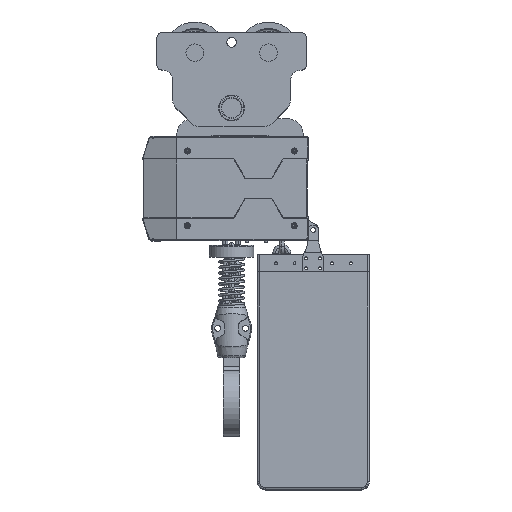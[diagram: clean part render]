
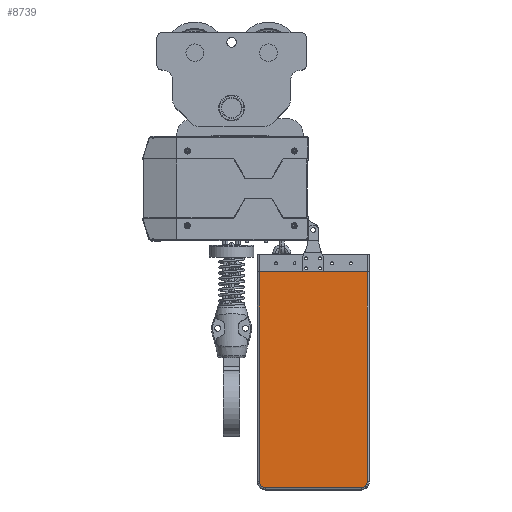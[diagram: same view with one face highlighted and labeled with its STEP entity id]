
A CAD part, top view. The second image highlights one B-rep face of the part: STEP entity #8739.
In plain terms, the highlighted planar face has unit normal (0, 0, 1).
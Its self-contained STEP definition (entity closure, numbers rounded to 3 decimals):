
#4586=CIRCLE('',#56665,11.);
#4587=CIRCLE('',#56666,11.);
#8739=ADVANCED_FACE('',(#12854),#10612,.T.);
#10612=PLANE('',#56667);
#12854=FACE_OUTER_BOUND('',#15731,.T.);
#15731=EDGE_LOOP('',(#27875,#27876,#27877,#27878,#27879,#27880));
#27875=ORIENTED_EDGE('',*,*,#42528,.T.);
#27876=ORIENTED_EDGE('',*,*,#42529,.T.);
#27877=ORIENTED_EDGE('',*,*,#42530,.T.);
#27878=ORIENTED_EDGE('',*,*,#42531,.T.);
#27879=ORIENTED_EDGE('',*,*,#42532,.T.);
#27880=ORIENTED_EDGE('',*,*,#42533,.T.);
#35674=VERTEX_POINT('',#98943);
#35675=VERTEX_POINT('',#98944);
#35676=VERTEX_POINT('',#98946);
#35677=VERTEX_POINT('',#98948);
#35678=VERTEX_POINT('',#98950);
#35679=VERTEX_POINT('',#98952);
#42528=EDGE_CURVE('',#35674,#35675,#47984,.T.);
#42529=EDGE_CURVE('',#35675,#35676,#47985,.T.);
#42530=EDGE_CURVE('',#35676,#35677,#47986,.T.);
#42531=EDGE_CURVE('',#35677,#35678,#4586,.T.);
#42532=EDGE_CURVE('',#35678,#35679,#47987,.T.);
#42533=EDGE_CURVE('',#35679,#35674,#4587,.T.);
#47984=LINE('',#98942,#52236);
#47985=LINE('',#98945,#52237);
#47986=LINE('',#98947,#52238);
#47987=LINE('',#98951,#52239);
#52236=VECTOR('',#68601,1.);
#52237=VECTOR('',#68602,1.);
#52238=VECTOR('',#68603,1.);
#52239=VECTOR('',#68606,1.);
#56665=AXIS2_PLACEMENT_3D('',#98949,#68604,#68605);
#56666=AXIS2_PLACEMENT_3D('',#98953,#68607,#68608);
#56667=AXIS2_PLACEMENT_3D('',#98954,#68609,#68610);
#68601=DIRECTION('',(0.,1.,0.));
#68602=DIRECTION('',(-1.,0.,0.));
#68603=DIRECTION('',(0.,-1.,0.));
#68604=DIRECTION('',(0.,0.,1.));
#68605=DIRECTION('',(1.,0.,0.));
#68606=DIRECTION('',(1.,0.,0.));
#68607=DIRECTION('',(0.,0.,1.));
#68608=DIRECTION('',(1.,0.,0.));
#68609=DIRECTION('',(0.,0.,1.));
#68610=DIRECTION('',(-1.,0.,0.));
#98942=CARTESIAN_POINT('',(1920.462,56.396,196.375));
#98943=CARTESIAN_POINT('',(1920.462,-249.604,196.375));
#98944=CARTESIAN_POINT('',(1920.462,143.396,196.375));
#98945=CARTESIAN_POINT('',(1744.812,143.396,196.375));
#98946=CARTESIAN_POINT('',(1718.662,143.396,196.375));
#98947=CARTESIAN_POINT('',(1718.662,56.396,196.375));
#98948=CARTESIAN_POINT('',(1718.662,-249.604,196.375));
#98949=CARTESIAN_POINT('',(1729.662,-249.604,196.375));
#98950=CARTESIAN_POINT('',(1729.662,-260.604,196.375));
#98951=CARTESIAN_POINT('',(1909.462,-260.604,196.375));
#98952=CARTESIAN_POINT('',(1909.462,-260.604,196.375));
#98953=CARTESIAN_POINT('',(1909.462,-249.604,196.375));
#98954=CARTESIAN_POINT('',(1744.812,56.396,196.375));
